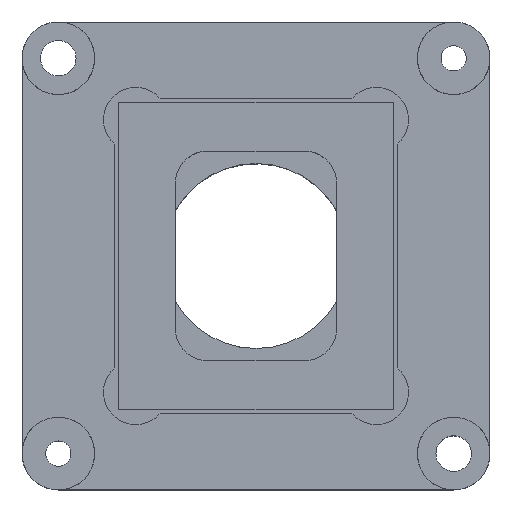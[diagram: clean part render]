
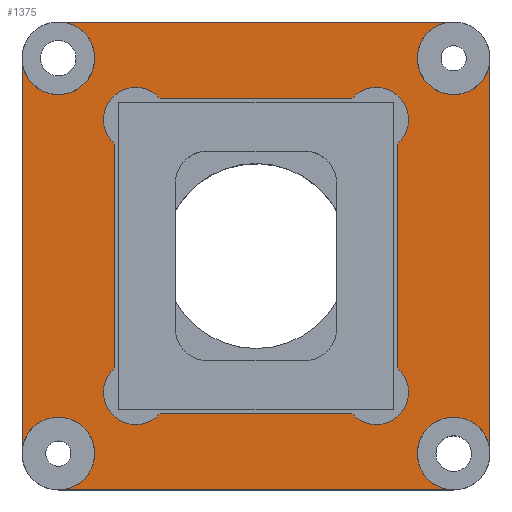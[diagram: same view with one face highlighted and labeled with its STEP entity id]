
A CAD part, top view. The second image highlights one B-rep face of the part: STEP entity #1375.
In plain terms, the highlighted planar face has unit normal (0, 0, 1).
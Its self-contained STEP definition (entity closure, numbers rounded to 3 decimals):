
#67=FACE_BOUND('',#163,.T.);
#84=FACE_OUTER_BOUND('',#162,.T.);
#162=EDGE_LOOP('',(#925,#926,#927,#928,#929,#930,#931,#932,#933,#934,#935,
#936));
#163=EDGE_LOOP('',(#937,#938,#939,#940,#941,#942,#943,#944));
#247=LINE('',#2117,#371);
#250=LINE('',#2123,#374);
#256=LINE('',#2145,#380);
#258=LINE('',#2155,#382);
#259=LINE('',#2161,#383);
#260=LINE('',#2165,#384);
#261=LINE('',#2169,#385);
#262=LINE('',#2173,#386);
#371=VECTOR('',#1710,10.);
#374=VECTOR('',#1715,10.);
#380=VECTOR('',#1739,10.);
#382=VECTOR('',#1751,10.);
#383=VECTOR('',#1756,10.);
#384=VECTOR('',#1759,10.);
#385=VECTOR('',#1762,10.);
#386=VECTOR('',#1765,10.);
#498=CIRCLE('',#1550,2.25);
#499=CIRCLE('',#1551,2.25);
#501=CIRCLE('',#1554,2.25);
#502=CIRCLE('',#1555,2.25);
#504=CIRCLE('',#1559,2.25);
#505=CIRCLE('',#1560,2.25);
#506=CIRCLE('',#1562,2.25);
#507=CIRCLE('',#1563,2.25);
#508=CIRCLE('',#1564,2.);
#509=CIRCLE('',#1565,2.);
#510=CIRCLE('',#1566,2.);
#511=CIRCLE('',#1567,2.);
#565=VERTEX_POINT('',#2113);
#566=VERTEX_POINT('',#2115);
#567=VERTEX_POINT('',#2119);
#568=VERTEX_POINT('',#2121);
#570=VERTEX_POINT('',#2127);
#571=VERTEX_POINT('',#2130);
#573=VERTEX_POINT('',#2136);
#574=VERTEX_POINT('',#2138);
#575=VERTEX_POINT('',#2143);
#577=VERTEX_POINT('',#2149);
#578=VERTEX_POINT('',#2154);
#579=VERTEX_POINT('',#2156);
#580=VERTEX_POINT('',#2159);
#581=VERTEX_POINT('',#2160);
#582=VERTEX_POINT('',#2162);
#583=VERTEX_POINT('',#2164);
#584=VERTEX_POINT('',#2166);
#585=VERTEX_POINT('',#2168);
#586=VERTEX_POINT('',#2170);
#587=VERTEX_POINT('',#2172);
#696=EDGE_CURVE('',#565,#566,#247,.T.);
#699=EDGE_CURVE('',#567,#568,#250,.T.);
#702=EDGE_CURVE('',#568,#570,#498,.T.);
#704=EDGE_CURVE('',#570,#571,#499,.T.);
#707=EDGE_CURVE('',#574,#573,#501,.T.);
#709=EDGE_CURVE('',#573,#567,#502,.T.);
#711=EDGE_CURVE('',#575,#574,#256,.T.);
#714=EDGE_CURVE('',#566,#577,#504,.T.);
#715=EDGE_CURVE('',#577,#575,#505,.T.);
#716=EDGE_CURVE('',#571,#578,#258,.T.);
#717=EDGE_CURVE('',#578,#579,#506,.T.);
#718=EDGE_CURVE('',#579,#565,#507,.T.);
#719=EDGE_CURVE('',#580,#581,#259,.T.);
#720=EDGE_CURVE('',#581,#582,#508,.T.);
#721=EDGE_CURVE('',#582,#583,#260,.T.);
#722=EDGE_CURVE('',#583,#584,#509,.T.);
#723=EDGE_CURVE('',#584,#585,#261,.T.);
#724=EDGE_CURVE('',#585,#586,#510,.T.);
#725=EDGE_CURVE('',#586,#587,#262,.T.);
#726=EDGE_CURVE('',#587,#580,#511,.T.);
#925=ORIENTED_EDGE('',*,*,#702,.T.);
#926=ORIENTED_EDGE('',*,*,#704,.T.);
#927=ORIENTED_EDGE('',*,*,#716,.T.);
#928=ORIENTED_EDGE('',*,*,#717,.T.);
#929=ORIENTED_EDGE('',*,*,#718,.T.);
#930=ORIENTED_EDGE('',*,*,#696,.T.);
#931=ORIENTED_EDGE('',*,*,#714,.T.);
#932=ORIENTED_EDGE('',*,*,#715,.T.);
#933=ORIENTED_EDGE('',*,*,#711,.T.);
#934=ORIENTED_EDGE('',*,*,#707,.T.);
#935=ORIENTED_EDGE('',*,*,#709,.T.);
#936=ORIENTED_EDGE('',*,*,#699,.T.);
#937=ORIENTED_EDGE('',*,*,#719,.T.);
#938=ORIENTED_EDGE('',*,*,#720,.T.);
#939=ORIENTED_EDGE('',*,*,#721,.T.);
#940=ORIENTED_EDGE('',*,*,#722,.T.);
#941=ORIENTED_EDGE('',*,*,#723,.T.);
#942=ORIENTED_EDGE('',*,*,#724,.T.);
#943=ORIENTED_EDGE('',*,*,#725,.T.);
#944=ORIENTED_EDGE('',*,*,#726,.T.);
#1265=PLANE('',#1561);
#1375=ADVANCED_FACE('',(#84,#67),#1265,.T.);
#1550=AXIS2_PLACEMENT_3D('',#2129,#1721,#1722);
#1551=AXIS2_PLACEMENT_3D('',#2132,#1724,#1725);
#1554=AXIS2_PLACEMENT_3D('',#2139,#1731,#1732);
#1555=AXIS2_PLACEMENT_3D('',#2141,#1734,#1735);
#1559=AXIS2_PLACEMENT_3D('',#2151,#1745,#1746);
#1560=AXIS2_PLACEMENT_3D('',#2152,#1747,#1748);
#1561=AXIS2_PLACEMENT_3D('',#2153,#1749,#1750);
#1562=AXIS2_PLACEMENT_3D('',#2157,#1752,#1753);
#1563=AXIS2_PLACEMENT_3D('',#2158,#1754,#1755);
#1564=AXIS2_PLACEMENT_3D('',#2163,#1757,#1758);
#1565=AXIS2_PLACEMENT_3D('',#2167,#1760,#1761);
#1566=AXIS2_PLACEMENT_3D('',#2171,#1763,#1764);
#1567=AXIS2_PLACEMENT_3D('',#2174,#1766,#1767);
#1710=DIRECTION('',(0.,-1.,0.));
#1715=DIRECTION('',(0.,1.,0.));
#1721=DIRECTION('center_axis',(0.,0.,-1.));
#1722=DIRECTION('ref_axis',(-1.,0.,0.));
#1724=DIRECTION('center_axis',(0.,0.,-1.));
#1725=DIRECTION('ref_axis',(-1.,0.,0.));
#1731=DIRECTION('center_axis',(0.,0.,-1.));
#1732=DIRECTION('ref_axis',(-1.,0.,0.));
#1734=DIRECTION('center_axis',(0.,0.,-1.));
#1735=DIRECTION('ref_axis',(-1.,0.,0.));
#1739=DIRECTION('',(1.,0.,0.));
#1745=DIRECTION('center_axis',(0.,0.,-1.));
#1746=DIRECTION('ref_axis',(-1.,0.,0.));
#1747=DIRECTION('center_axis',(0.,0.,-1.));
#1748=DIRECTION('ref_axis',(-1.,0.,0.));
#1749=DIRECTION('center_axis',(0.,0.,1.));
#1750=DIRECTION('ref_axis',(1.,0.,0.));
#1751=DIRECTION('',(-1.,0.,0.));
#1752=DIRECTION('center_axis',(0.,0.,-1.));
#1753=DIRECTION('ref_axis',(-1.,0.,0.));
#1754=DIRECTION('center_axis',(0.,0.,-1.));
#1755=DIRECTION('ref_axis',(-1.,0.,0.));
#1756=DIRECTION('',(-1.,0.,0.));
#1757=DIRECTION('center_axis',(0.,0.,-1.));
#1758=DIRECTION('ref_axis',(-1.,0.,0.));
#1759=DIRECTION('',(0.,1.,0.));
#1760=DIRECTION('center_axis',(0.,0.,-1.));
#1761=DIRECTION('ref_axis',(-1.,0.,0.));
#1762=DIRECTION('',(1.,0.,0.));
#1763=DIRECTION('center_axis',(0.,0.,-1.));
#1764=DIRECTION('ref_axis',(-1.,0.,0.));
#1765=DIRECTION('',(0.,-1.,0.));
#1766=DIRECTION('center_axis',(0.,0.,-1.));
#1767=DIRECTION('ref_axis',(-1.,0.,0.));
#2113=CARTESIAN_POINT('',(-14.5,12.25,2.3));
#2115=CARTESIAN_POINT('',(-14.5,-12.25,2.3));
#2117=CARTESIAN_POINT('',(-14.5,-14.5,2.3));
#2119=CARTESIAN_POINT('',(14.5,-12.25,2.3));
#2121=CARTESIAN_POINT('',(14.5,12.25,2.3));
#2123=CARTESIAN_POINT('',(14.5,14.5,2.3));
#2127=CARTESIAN_POINT('',(10.659,10.659,2.3));
#2129=CARTESIAN_POINT('Origin',(12.25,12.25,2.3));
#2130=CARTESIAN_POINT('',(12.25,14.5,2.3));
#2132=CARTESIAN_POINT('Origin',(12.25,12.25,2.3));
#2136=CARTESIAN_POINT('',(10.659,-10.659,2.3));
#2138=CARTESIAN_POINT('',(12.25,-14.5,2.3));
#2139=CARTESIAN_POINT('Origin',(12.25,-12.25,2.3));
#2141=CARTESIAN_POINT('Origin',(12.25,-12.25,2.3));
#2143=CARTESIAN_POINT('',(-12.25,-14.5,2.3));
#2145=CARTESIAN_POINT('',(14.5,-14.5,2.3));
#2149=CARTESIAN_POINT('',(-10.659,-10.659,2.3));
#2151=CARTESIAN_POINT('Origin',(-12.25,-12.25,2.3));
#2152=CARTESIAN_POINT('Origin',(-12.25,-12.25,2.3));
#2153=CARTESIAN_POINT('Origin',(0.,0.,2.3));
#2154=CARTESIAN_POINT('',(-12.25,14.5,2.3));
#2155=CARTESIAN_POINT('',(-14.5,14.5,2.3));
#2156=CARTESIAN_POINT('',(-10.659,10.659,2.3));
#2157=CARTESIAN_POINT('Origin',(-12.25,12.25,2.3));
#2158=CARTESIAN_POINT('Origin',(-12.25,12.25,2.3));
#2159=CARTESIAN_POINT('',(5.93,-9.75,2.3));
#2160=CARTESIAN_POINT('',(-5.93,-9.75,2.3));
#2161=CARTESIAN_POINT('',(4.375,-9.75,2.3));
#2162=CARTESIAN_POINT('',(-8.75,-6.93,2.3));
#2163=CARTESIAN_POINT('Origin',(-7.45,-8.45,2.3));
#2164=CARTESIAN_POINT('',(-8.75,6.93,2.3));
#2165=CARTESIAN_POINT('',(-8.75,-4.875,2.3));
#2166=CARTESIAN_POINT('',(-5.93,9.75,2.3));
#2167=CARTESIAN_POINT('Origin',(-7.45,8.45,2.3));
#2168=CARTESIAN_POINT('',(5.93,9.75,2.3));
#2169=CARTESIAN_POINT('',(-4.375,9.75,2.3));
#2170=CARTESIAN_POINT('',(8.75,6.93,2.3));
#2171=CARTESIAN_POINT('Origin',(7.45,8.45,2.3));
#2172=CARTESIAN_POINT('',(8.75,-6.93,2.3));
#2173=CARTESIAN_POINT('',(8.75,4.875,2.3));
#2174=CARTESIAN_POINT('Origin',(7.45,-8.45,2.3));
